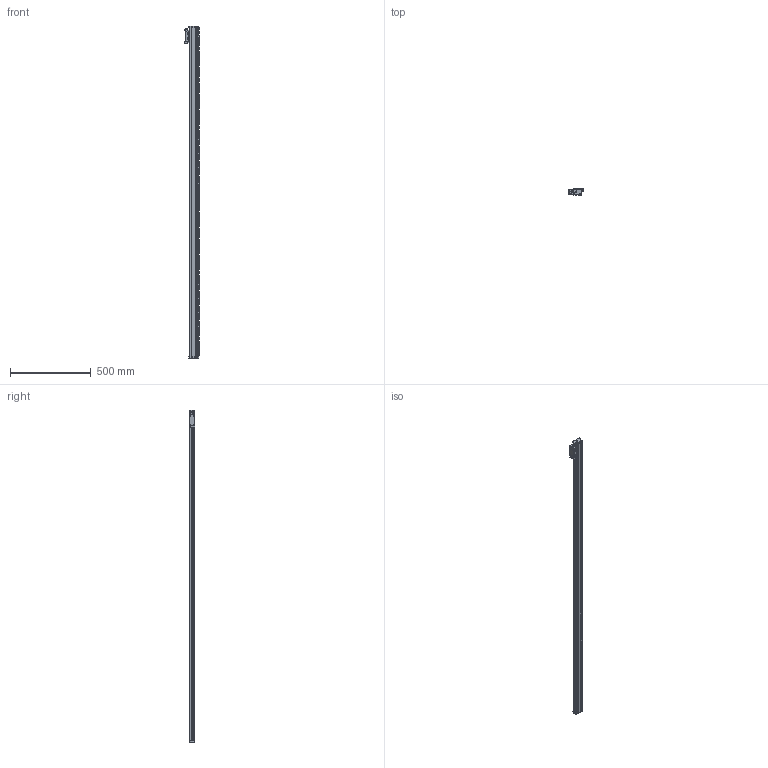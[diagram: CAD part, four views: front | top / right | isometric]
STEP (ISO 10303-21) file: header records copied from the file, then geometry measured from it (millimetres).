
FILE_DESCRIPTION(/* description */ (''),/* implementation_level */ '2;1');
FILE_NAME(/* name */ 'JC21A-1940-1.stp',/* time_stamp */ '2023-12-21T17:01:59+08:00',/* author */ (''),/* organization */ (''),/* preprocessor_version */ 'ST-DEVELOPER v14',/* originating_system */ 'SIEMENS PLM Software NX 8.0',/* authorisation */ '');
FILE_SCHEMA (('CONFIG_CONTROL_DESIGN'));
Length unit declared in the file: millimetre
Products named in the file (1): JC21A-1940-1
Bounding box: 87.5 x 37 x 2061 mm (x, y, z)
Volume: 3226987.1 mm3; surface area: 525715.2 mm2
Topology: 4 solids, 6 shells, 1169 faces, 3482 edges, 2317 vertices
Faces by surface type: plane 732, cylinder 405, cone 22, bspline 8, extrusion 2
Full cylindrical faces by diameter (mm): 2.5 x12, 3.3 x6, 3.7 x4, 4.2 x4, 5 x2, 6 x6, 6.6 x2, 6.8 x22, 7 x2, 13.2 x2
Entity records: 40065 total; most frequent: CARTESIAN_POINT 8159, ORIENTED_EDGE 6720, DIRECTION 6624, EDGE_CURVE 3360, VERTEX_POINT 2279, AXIS2_PLACEMENT_3D 2217, VECTOR 2190, LINE 2188
